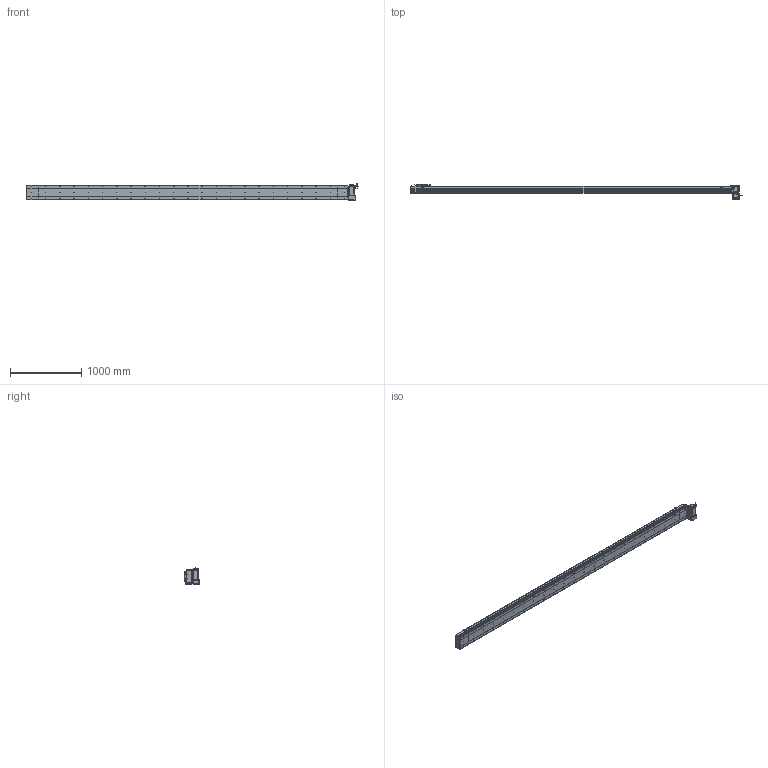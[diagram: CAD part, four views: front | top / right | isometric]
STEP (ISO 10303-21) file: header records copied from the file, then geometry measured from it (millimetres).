
FILE_DESCRIPTION (( 'STEP AP214' ), '1' );
FILE_NAME ('D20 CBH RU S4200.STEP', '2010-06-30T11:26:20', ( 'Conseil Régional Haute-Normandie' ), ( 'Conseil Régional Haute-Normandie' ), 'SwSTEP 2.0', 'SolidWorks 2010', '' );
FILE_SCHEMA (( 'AUTOMOTIVE_DESIGN' ));
Length unit declared in the file: millimetre
Products named in the file (31): Conecteur2_Default; Couvercle_Default; Glissiere_Default; Corp Tail D20_Default; Tail D20_Default; Chariot D20_Default; Support Chariot D20_Default; Couvercle S4200_Default; Corp S4200_Default; Corp D20 S4200_Default; ecrou_Default; vis M5 L30_Default; vis M5 L47_Default; Conecteur_Default; vis M5 L15_Default; Plaque De Serrage D20_Default; Plaque de Bout Tail D20_Default; D20 CBH RU S4200; Support moteur RU_Default; Plaque de Bout Head D20 RU_Default; Head RU_Default; Plaque De Serrage D20 RU_Default; Couvercle RU_Default; Corp Tail D20 RU_Default; Moteur motionking 90BLDC125A-640; Rondelle Cache D20 RU_Default; Cache Support Moteur RU_Default; codeur 90BLDC125-640; corps 90BLDC125A-640; avant 90BLDC125A-640
Assembly tree (66 placements, depth 4):
  D20 CBH RU S4200
    Head RU_Default
      vis M5 L15_Default  x12
      Cache Support Moteur RU_Default
      Plaque De Serrage D20 RU_Default
      Moteur motionking 90BLDC125A-640
        codeur 90BLDC125-640
        Conecteur2_Default
        Conecteur_Default
        avant 90BLDC125A-640
        corps 90BLDC125A-640
      Couvercle RU_Default
      Support moteur RU_Default
      vis M5 L30_Default  x4
      vis M5 L47_Default  x4
      Plaque de Bout Head D20 RU_Default
      ecrou_Default  x4
      Rondelle Cache D20 RU_Default  x3
      Corp Tail D20 RU_Default
    Chariot D20_Default
      vis M5 L15_Default  x8
      Glissiere_Default
      Support Chariot D20_Default
      Chariot D20_Default
    Tail D20_Default
      Corp Tail D20_Default
      vis M5 L15_Default  x6
      Plaque De Serrage D20_Default
      Couvercle_Default
      Plaque de Bout Tail D20_Default
    Corp D20 S4200_Default
      Corp S4200_Default
      Couvercle S4200_Default
Bounding box: 4664.45 x 209 x 229.7 mm (x, y, z)
Volume: 30822331.5 mm3; surface area: 5863657.5 mm2
Topology: 103 solids, 103 shells, 3868 faces, 9596 edges, 6238 vertices
Faces by surface type: plane 2129, bspline 806, cylinder 770, torus 91, cone 68, sphere 4
Entity records: 162046 total; most frequent: CARTESIAN_POINT 82740, ORIENTED_EDGE 15660, DIRECTION 12138, EDGE_CURVE 7830, VERTEX_POINT 5182, LINE 5002, VECTOR 5002, AXIS2_PLACEMENT_3D 3568
